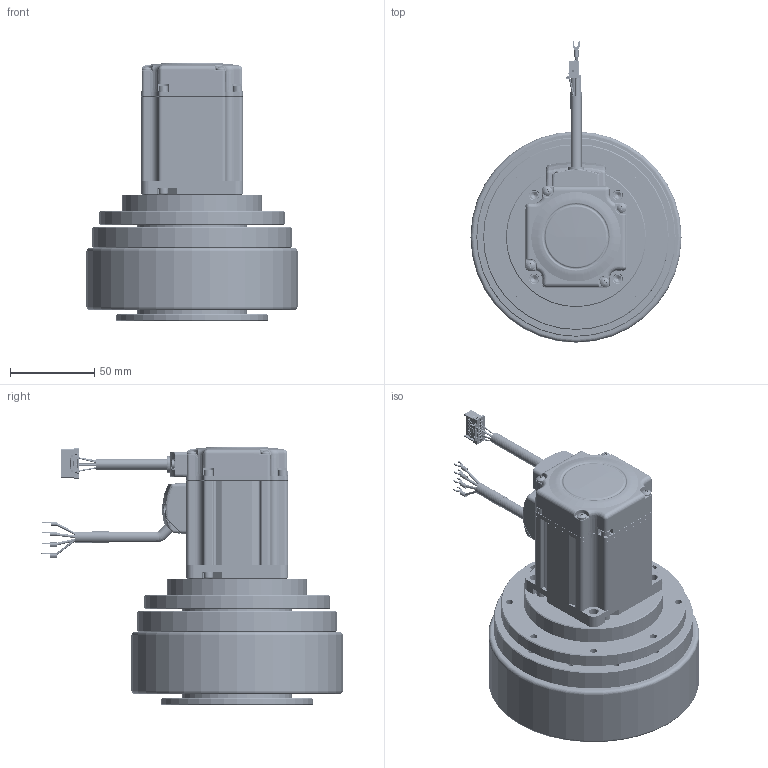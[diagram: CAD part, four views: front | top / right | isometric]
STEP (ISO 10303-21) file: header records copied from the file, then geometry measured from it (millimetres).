
FILE_DESCRIPTION((''),'2;1');
FILE_NAME('SM0601-SL-KCY-NNV_ASM','2025-05-15T08:38:35',('ms15079'),(''),'CREO PARAMETRIC BY PTC INC, 2018100','CREO PARAMETRIC BY PTC INC, 2018100','');
FILE_SCHEMA(('CONFIG_CONTROL_DESIGN'));
Length unit declared in the file: millimetre
Products named in the file (60): NONE-1162; AGV-2-SOLID10001; 4294440100155-5-SOLID1; 4613103300194_A0-1_4294404-7505; 60-1_42191213045360001; 60-1_5016461600-1-0001; 4294404000418-7-SOLID1; 4294404000418-5-SOLID1; 4713101003XXX-A0-0525-1_BOARD_2; 4294404000400-5-SOLID1; 4294440100155-7-SOLID1; 4613103300194_A0-1_421913000017; 4713101003XXX-A0-0525-1_J1_1-1_; 4294404000400-6-SOLID1; AGV-1-SOLID10001; 4294404000400-2-SOLID1; NONE-76582; 4613103300194_A0-1_369815400004; NONE-80489; 4219120100719-2-SOLID1; 4294440100155-3-SOLID1; AGV-3-SOLID10001; 4294404000400-7-SOLID1; 4613108100087_A0-1_433210120636; 4294404000400-8-SOLID1; 4331101000117-1-SOLID1; 4294440100155-4-SOLID1; AGV-4-SOLID10001; 60-1_42944040004180001; NONE-111261; 4713101003XXX-A0-0525-1_D2_1-1_; 4294404000418-6-SOLID1; 4294440100155-8-SOLID1; 60-1_-1-SOLID1H_X_0001; 60-1_36981540002850001; 4613103300194_A0-1_421912000004; 4713101003XXX-A0-0525-1_C11_1-1; 4219121300897-1-SOLID1; 4294440100155-9-SOLID1; 4613103300194_A0-1_42944-137769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
Assembly tree (81 placements, depth 4):
  SM0601-SL-KCY-NNV_ASM
    4611170001075_ASM
      NONE-1162
      AGV-2-SOLID10001
      4294440100155-5-SOLID1
      4613103300194_A0-1_4294404-7505
      60-1_42191213045360001
      60-1_5016461600-1-0001
      4294404000418-7-SOLID1
      4294404000418-5-SOLID1
      4713101003XXX-A0-0525-1_BOARD_2
      4294404000400-5-SOLID1
      4294440100155-7-SOLID1
      4613103300194_A0-1_421913000017
      4713101003XXX-A0-0525-1_J1_1-1_
      4294404000400-6-SOLID1
      AGV-1-SOLID10001
      4294404000400-2-SOLID1
      NONE-76582
      4613103300194_A0-1_369815400004
      NONE-80489
      4219120100719-2-SOLID1
      4294440100155-3-SOLID1
      AGV-3-SOLID10001
      4294404000400-7-SOLID1
      4613108100087_A0-1_433210120636
      4294404000400-8-SOLID1
      4331101000117-1-SOLID1
      4294440100155-4-SOLID1
      AGV-4-SOLID10001
      60-1_42944040004180001
      NONE-111261
      4713101003XXX-A0-0525-1_D2_1-1_
      4294404000418-6-SOLID1
      4294440100155-8-SOLID1
      60-1_-1-SOLID1H_X_0001
      60-1_36981540002850001
      4613103300194_A0-1_421912000004
      4713101003XXX-A0-0525-1_C11_1-1
      4219121300897-1-SOLID1
      4294440100155-9-SOLID1
      4613103300194_A0-1_42944-137769
      4219121500052-1-SOLID2
      NONE-143771
      4613130000152-1-SOLID1
      4294404000400-4-SOLID1
      4294404000400-1-SOLID1
      NONE-168176
      4294440100155-2-SOLID1
      4219121500052-1-SOLID1
      4634140203189-1-SOLID1
      4634140203189-1-SOLID2
      4294440100155-6-SOLID1
      4294404000400-3-SOLID1
    ASM0008_ASM
      AEQ-095C-L2-14-1-H37-W125_ASM
        SINGLE_COIL_LOCK_WASHERS_LIGHT_  x12
        HEXAGON_SOCKET_HEAD_CAP_SCREWS_  x12
        AEQ-95-H37-W125
        AEQ-095C-L2-14-1_X2_6A21578BFF0
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Bounding box: 125 x 178.34 x 153 mm (x, y, z)
Volume: 865397.4 mm3; surface area: 213891.5 mm2
Topology: 78 solids, 84 shells, 4425 faces, 11298 edges, 7036 vertices
Faces by surface type: plane 1865, cylinder 1217, cone 521, torus 311, bspline 209, extrusion 167, sphere 135
Entity records: 248477 total; most frequent: CARTESIAN_POINT 150612, ORIENTED_EDGE 20508, DIRECTION 19583, EDGE_CURVE 10254, AXIS2_PLACEMENT_3D 7035, VERTEX_POINT 6497, VECTOR 5513, LINE 5346
